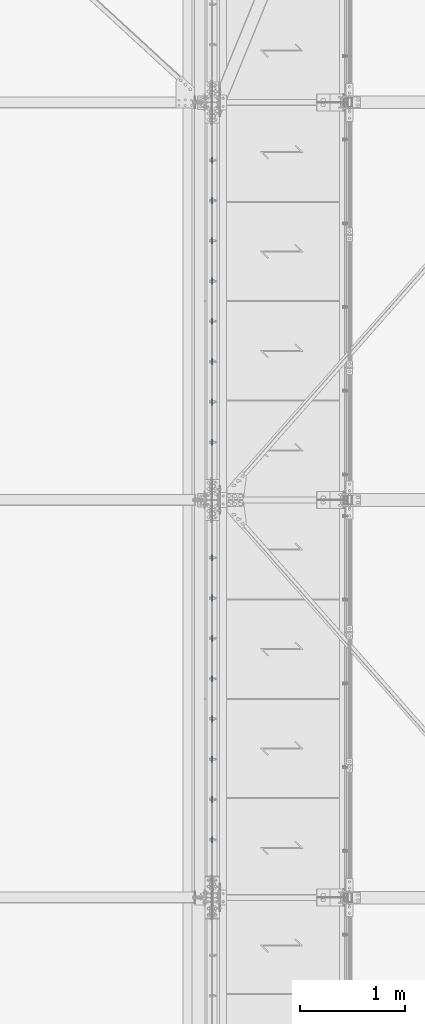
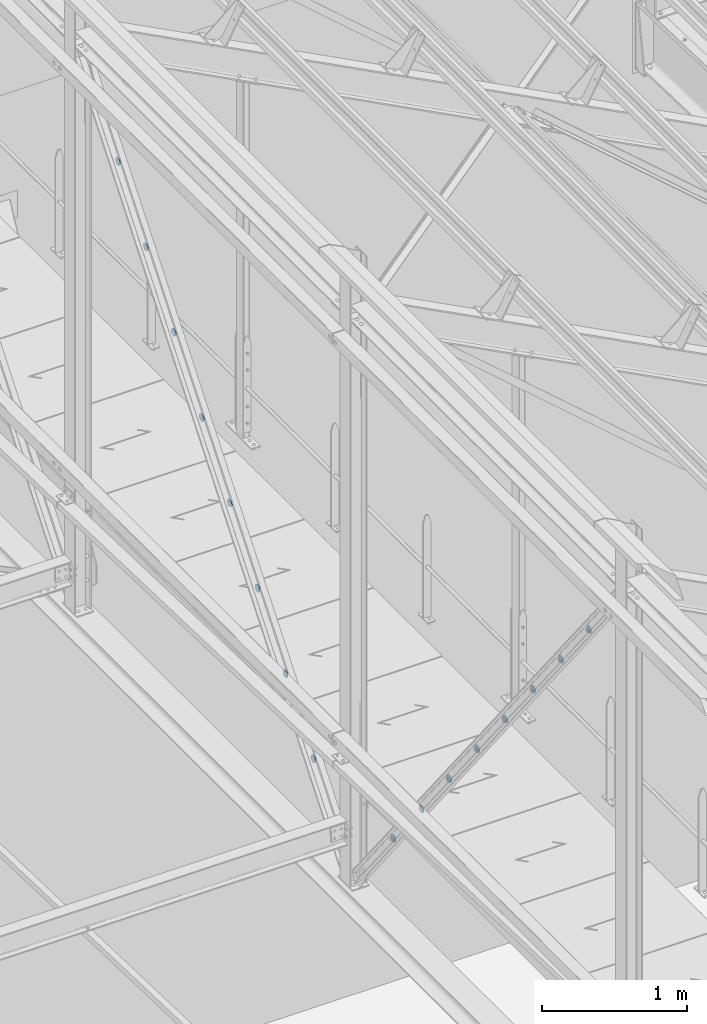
# One storey, part 118 of 362: 16 beams, 16 elements without a shape of their own.
"""IFC2X3 building model written with IfcOpenShell, lengths in millimetres."""

from ifc_helpers import new_model, si_unit, frame, frame_2d, origin_with_axes, place, context, subcontext, project, spatial, circle_curve, parameter, trimmed, segment, composite_curve, outline, extrude, material, type_object, element, aggregate, save


model = new_model("IFC2X3")

# Units and contexts
model_context = context("Model", 3, precision=1e-05, world=origin_with_axes())
body_context = subcontext(model_context, "Body", "Model", "MODEL_VIEW")
ifc_project = project(units=[si_unit("LENGTHUNIT", "METRE", prefix="MILLI"), si_unit("AREAUNIT", "SQUARE_METRE"), si_unit("VOLUMEUNIT", "CUBIC_METRE"), si_unit("MASSUNIT", "GRAM", prefix="KILO"), si_unit("TIMEUNIT", "SECOND"), si_unit("PLANEANGLEUNIT", "RADIAN"), si_unit("SOLIDANGLEUNIT", "STERADIAN"), si_unit("THERMODYNAMICTEMPERATUREUNIT", "DEGREE_CELSIUS"), si_unit("LUMINOUSINTENSITYUNIT", "LUMEN")], contexts=[model_context])

# Site, building, storey
site_placement = place(None, origin_with_axes())
site = spatial("IfcSite", under=ifc_project, at=site_placement, Name="Undefined", CompositionType="ELEMENT")
building_placement = place(site_placement, origin_with_axes())
building = spatial("IfcBuilding", under=site, at=building_placement, Name="Undefined", CompositionType="ELEMENT")
storey_placement = place(building_placement, origin_with_axes())
storey = spatial("IfcBuildingStorey", under=building, at=storey_placement, Name="Undefined", CompositionType="ELEMENT", Elevation=0.0)

# Assembly, beam
assembly_1_placement = place(storey_placement, origin_with_axes())
assembly_1 = element("IfcElementAssembly", 1, at=assembly_1_placement, inside=storey, AssemblyPlace="NOTDEFINED", PredefinedType="NOTDEFINED")
ifc_material = material(Name="Undefined/S235-E24")
beam_type = type_object("IfcBeamType", Name="TOLE8*60", PredefinedType="NOTDEFINED")
beam_1_placement = place(assembly_1_placement, frame((12680.0, 4382.78710359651, 11370.6337213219), z_axis=(-1.0, 0.0, 0.0), x_axis=(0.0, 0.0, -1.0)))
beam_1 = element("IfcBeam", 2, at=beam_1_placement, type_object=beam_type, material=ifc_material, Name="PLAQUETTE", ObjectType="TOLE8*60", context=body_context, shape_type="SweptSolid", body=[
    extrude(outline(composite_curve([segment(trimmed(circle_curve(frame_2d((30.0, 30.0), x_axis=(-1.0, 0.0)), 30.0), [parameter(0.0)], [parameter(1.5707963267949)], True, "PARAMETER"), True, "CONTINUOUS"), segment(trimmed(circle_curve(frame_2d((30.0, 30.0), x_axis=(0.0, -1.0)), 30.0), [parameter(0.0)], [parameter(1.5707963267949)], True, "PARAMETER"), True, "CONTINUOUS"), segment(trimmed(circle_curve(frame_2d((30.0, 30.0), x_axis=(1.0, 0.0)), 30.0), [parameter(0.0)], [parameter(1.5707963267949)], True, "PARAMETER"), True, "CONTINUOUS"), segment(trimmed(circle_curve(frame_2d((30.0, 30.0), x_axis=(0.0, 1.0)), 30.0), [parameter(0.0)], [parameter(1.5707963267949)], True, "PARAMETER"), True, "CONTINUOUS")], self_intersect=True)), frame((0.0, 0.0, -4.0), z_axis=(0.0, 0.0, 1.0), x_axis=(1.0, 0.0, 0.0)), (0.0, 0.0, 1.0), 8.0),
])
aggregate(assembly_1, [beam_1])

assembly_2_placement = place(storey_placement, origin_with_axes())
assembly_2 = element("IfcElementAssembly", 3, at=assembly_2_placement, inside=storey, AssemblyPlace="NOTDEFINED", PredefinedType="NOTDEFINED")
beam_2_placement = place(assembly_2_placement, frame((12680.0, 4767.70507401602, 10885.7383723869), z_axis=(-1.0, 0.0, 0.0), x_axis=(0.0, 0.0, -1.0)))
beam_2 = element("IfcBeam", 4, at=beam_2_placement, type_object=beam_type, material=ifc_material, Name="PLAQUETTE", ObjectType="TOLE8*60", context=body_context, shape_type="SweptSolid", body=[
    extrude(outline(composite_curve([segment(trimmed(circle_curve(frame_2d((30.0, 30.0), x_axis=(-1.0, 0.0)), 30.0), [parameter(0.0)], [parameter(1.5707963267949)], True, "PARAMETER"), True, "CONTINUOUS"), segment(trimmed(circle_curve(frame_2d((30.0, 30.0), x_axis=(0.0, -1.0)), 30.0), [parameter(0.0)], [parameter(1.5707963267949)], True, "PARAMETER"), True, "CONTINUOUS"), segment(trimmed(circle_curve(frame_2d((30.0, 30.0), x_axis=(1.0, 0.0)), 30.0), [parameter(0.0)], [parameter(1.5707963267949)], True, "PARAMETER"), True, "CONTINUOUS"), segment(trimmed(circle_curve(frame_2d((30.0, 30.0), x_axis=(0.0, 1.0)), 30.0), [parameter(0.0)], [parameter(1.5707963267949)], True, "PARAMETER"), True, "CONTINUOUS")], self_intersect=True)), frame((0.0, 0.0, -4.0), z_axis=(0.0, 0.0, 1.0), x_axis=(1.0, 0.0, 0.0)), (0.0, 0.0, 1.0), 8.0),
])
aggregate(assembly_2, [beam_2])

assembly_3_placement = place(storey_placement, origin_with_axes())
assembly_3 = element("IfcElementAssembly", 5, at=assembly_3_placement, inside=storey, AssemblyPlace="NOTDEFINED", PredefinedType="NOTDEFINED")
beam_3_placement = place(assembly_3_placement, frame((12680.0, 5152.62304443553, 10400.843023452), z_axis=(-1.0, 0.0, 0.0), x_axis=(0.0, 0.0, -1.0)))
beam_3 = element("IfcBeam", 6, at=beam_3_placement, type_object=beam_type, material=ifc_material, Name="PLAQUETTE", ObjectType="TOLE8*60", context=body_context, shape_type="SweptSolid", body=[
    extrude(outline(composite_curve([segment(trimmed(circle_curve(frame_2d((30.0, 30.0), x_axis=(-1.0, 0.0)), 30.0), [parameter(0.0)], [parameter(1.5707963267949)], True, "PARAMETER"), True, "CONTINUOUS"), segment(trimmed(circle_curve(frame_2d((30.0, 30.0), x_axis=(0.0, -1.0)), 30.0), [parameter(0.0)], [parameter(1.5707963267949)], True, "PARAMETER"), True, "CONTINUOUS"), segment(trimmed(circle_curve(frame_2d((30.0, 30.0), x_axis=(1.0, 0.0)), 30.0), [parameter(0.0)], [parameter(1.5707963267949)], True, "PARAMETER"), True, "CONTINUOUS"), segment(trimmed(circle_curve(frame_2d((30.0, 30.0), x_axis=(0.0, 1.0)), 30.0), [parameter(0.0)], [parameter(1.5707963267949)], True, "PARAMETER"), True, "CONTINUOUS")], self_intersect=True)), frame((0.0, 0.0, -4.0), z_axis=(0.0, 0.0, 1.0), x_axis=(1.0, 0.0, 0.0)), (0.0, 0.0, 1.0), 8.0),
])
aggregate(assembly_3, [beam_3])

assembly_4_placement = place(storey_placement, origin_with_axes())
assembly_4 = element("IfcElementAssembly", 7, at=assembly_4_placement, inside=storey, AssemblyPlace="NOTDEFINED", PredefinedType="NOTDEFINED")
beam_4_placement = place(assembly_4_placement, frame((12680.0, 5537.54101485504, 9915.94767451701), z_axis=(-1.0, 0.0, 0.0), x_axis=(0.0, 0.0, -1.0)))
beam_4 = element("IfcBeam", 8, at=beam_4_placement, type_object=beam_type, material=ifc_material, Name="PLAQUETTE", ObjectType="TOLE8*60", context=body_context, shape_type="SweptSolid", body=[
    extrude(outline(composite_curve([segment(trimmed(circle_curve(frame_2d((30.0, 30.0), x_axis=(-1.0, 0.0)), 30.0), [parameter(0.0)], [parameter(1.5707963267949)], True, "PARAMETER"), True, "CONTINUOUS"), segment(trimmed(circle_curve(frame_2d((30.0, 30.0), x_axis=(0.0, -1.0)), 30.0), [parameter(0.0)], [parameter(1.5707963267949)], True, "PARAMETER"), True, "CONTINUOUS"), segment(trimmed(circle_curve(frame_2d((30.0, 30.0), x_axis=(1.0, 0.0)), 30.0), [parameter(0.0)], [parameter(1.5707963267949)], True, "PARAMETER"), True, "CONTINUOUS"), segment(trimmed(circle_curve(frame_2d((30.0, 30.0), x_axis=(0.0, 1.0)), 30.0), [parameter(0.0)], [parameter(1.5707963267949)], True, "PARAMETER"), True, "CONTINUOUS")], self_intersect=True)), frame((0.0, 0.0, -4.0), z_axis=(0.0, 0.0, 1.0), x_axis=(1.0, 0.0, 0.0)), (0.0, 0.0, 1.0), 8.0),
])
aggregate(assembly_4, [beam_4])

assembly_5_placement = place(storey_placement, origin_with_axes())
assembly_5 = element("IfcElementAssembly", 9, at=assembly_5_placement, inside=storey, AssemblyPlace="NOTDEFINED", PredefinedType="NOTDEFINED")
beam_5_placement = place(assembly_5_placement, frame((12680.0, 5922.45898527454, 9431.05232558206), z_axis=(-1.0, 0.0, 0.0), x_axis=(0.0, 0.0, -1.0)))
beam_5 = element("IfcBeam", 10, at=beam_5_placement, type_object=beam_type, material=ifc_material, Name="PLAQUETTE", ObjectType="TOLE8*60", context=body_context, shape_type="SweptSolid", body=[
    extrude(outline(composite_curve([segment(trimmed(circle_curve(frame_2d((30.0, 30.0), x_axis=(-1.0, 0.0)), 30.0), [parameter(0.0)], [parameter(1.5707963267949)], True, "PARAMETER"), True, "CONTINUOUS"), segment(trimmed(circle_curve(frame_2d((30.0, 30.0), x_axis=(0.0, -1.0)), 30.0), [parameter(0.0)], [parameter(1.5707963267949)], True, "PARAMETER"), True, "CONTINUOUS"), segment(trimmed(circle_curve(frame_2d((30.0, 30.0), x_axis=(1.0, 0.0)), 30.0), [parameter(0.0)], [parameter(1.5707963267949)], True, "PARAMETER"), True, "CONTINUOUS"), segment(trimmed(circle_curve(frame_2d((30.0, 30.0), x_axis=(0.0, 1.0)), 30.0), [parameter(0.0)], [parameter(1.5707963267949)], True, "PARAMETER"), True, "CONTINUOUS")], self_intersect=True)), frame((0.0, 0.0, -4.0), z_axis=(0.0, 0.0, 1.0), x_axis=(1.0, 0.0, 0.0)), (0.0, 0.0, 1.0), 8.0),
])
aggregate(assembly_5, [beam_5])

assembly_6_placement = place(storey_placement, origin_with_axes())
assembly_6 = element("IfcElementAssembly", 11, at=assembly_6_placement, inside=storey, AssemblyPlace="NOTDEFINED", PredefinedType="NOTDEFINED")
beam_6_placement = place(assembly_6_placement, frame((12680.0, 6307.37695569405, 8946.15697664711), z_axis=(-1.0, 0.0, 0.0), x_axis=(0.0, 0.0, -1.0)))
beam_6 = element("IfcBeam", 12, at=beam_6_placement, type_object=beam_type, material=ifc_material, Name="PLAQUETTE", ObjectType="TOLE8*60", context=body_context, shape_type="SweptSolid", body=[
    extrude(outline(composite_curve([segment(trimmed(circle_curve(frame_2d((30.0, 30.0), x_axis=(-1.0, 0.0)), 30.0), [parameter(0.0)], [parameter(1.5707963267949)], True, "PARAMETER"), True, "CONTINUOUS"), segment(trimmed(circle_curve(frame_2d((30.0, 30.0), x_axis=(0.0, -1.0)), 30.0), [parameter(0.0)], [parameter(1.5707963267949)], True, "PARAMETER"), True, "CONTINUOUS"), segment(trimmed(circle_curve(frame_2d((30.0, 30.0), x_axis=(1.0, 0.0)), 30.0), [parameter(0.0)], [parameter(1.5707963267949)], True, "PARAMETER"), True, "CONTINUOUS"), segment(trimmed(circle_curve(frame_2d((30.0, 30.0), x_axis=(0.0, 1.0)), 30.0), [parameter(0.0)], [parameter(1.5707963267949)], True, "PARAMETER"), True, "CONTINUOUS")], self_intersect=True)), frame((0.0, 0.0, -4.0), z_axis=(0.0, 0.0, 1.0), x_axis=(1.0, 0.0, 0.0)), (0.0, 0.0, 1.0), 8.0),
])
aggregate(assembly_6, [beam_6])

assembly_7_placement = place(storey_placement, origin_with_axes())
assembly_7 = element("IfcElementAssembly", 13, at=assembly_7_placement, inside=storey, AssemblyPlace="NOTDEFINED", PredefinedType="NOTDEFINED")
beam_7_placement = place(assembly_7_placement, frame((12680.0, 6692.29492611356, 8461.26162771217), z_axis=(-1.0, 0.0, 0.0), x_axis=(0.0, 0.0, -1.0)))
beam_7 = element("IfcBeam", 14, at=beam_7_placement, type_object=beam_type, material=ifc_material, Name="PLAQUETTE", ObjectType="TOLE8*60", context=body_context, shape_type="SweptSolid", body=[
    extrude(outline(composite_curve([segment(trimmed(circle_curve(frame_2d((30.0, 30.0), x_axis=(-1.0, 0.0)), 30.0), [parameter(0.0)], [parameter(1.5707963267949)], True, "PARAMETER"), True, "CONTINUOUS"), segment(trimmed(circle_curve(frame_2d((30.0, 30.0), x_axis=(0.0, -1.0)), 30.0), [parameter(0.0)], [parameter(1.5707963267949)], True, "PARAMETER"), True, "CONTINUOUS"), segment(trimmed(circle_curve(frame_2d((30.0, 30.0), x_axis=(1.0, 0.0)), 30.0), [parameter(0.0)], [parameter(1.5707963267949)], True, "PARAMETER"), True, "CONTINUOUS"), segment(trimmed(circle_curve(frame_2d((30.0, 30.0), x_axis=(0.0, 1.0)), 30.0), [parameter(0.0)], [parameter(1.5707963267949)], True, "PARAMETER"), True, "CONTINUOUS")], self_intersect=True)), frame((0.0, 0.0, -4.0), z_axis=(0.0, 0.0, 1.0), x_axis=(1.0, 0.0, 0.0)), (0.0, 0.0, 1.0), 8.0),
])
aggregate(assembly_7, [beam_7])

assembly_8_placement = place(storey_placement, origin_with_axes())
assembly_8 = element("IfcElementAssembly", 15, at=assembly_8_placement, inside=storey, AssemblyPlace="NOTDEFINED", PredefinedType="NOTDEFINED")
beam_8_placement = place(assembly_8_placement, frame((12680.0, 7077.21289653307, 7976.36627877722), z_axis=(-1.0, 0.0, 0.0), x_axis=(0.0, 0.0, -1.0)))
beam_8 = element("IfcBeam", 16, at=beam_8_placement, type_object=beam_type, material=ifc_material, Name="PLAQUETTE", ObjectType="TOLE8*60", context=body_context, shape_type="SweptSolid", body=[
    extrude(outline(composite_curve([segment(trimmed(circle_curve(frame_2d((30.0, 30.0), x_axis=(-1.0, 0.0)), 30.0), [parameter(0.0)], [parameter(1.5707963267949)], True, "PARAMETER"), True, "CONTINUOUS"), segment(trimmed(circle_curve(frame_2d((30.0, 30.0), x_axis=(0.0, -1.0)), 30.0), [parameter(0.0)], [parameter(1.5707963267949)], True, "PARAMETER"), True, "CONTINUOUS"), segment(trimmed(circle_curve(frame_2d((30.0, 30.0), x_axis=(1.0, 0.0)), 30.0), [parameter(0.0)], [parameter(1.5707963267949)], True, "PARAMETER"), True, "CONTINUOUS"), segment(trimmed(circle_curve(frame_2d((30.0, 30.0), x_axis=(0.0, 1.0)), 30.0), [parameter(0.0)], [parameter(1.5707963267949)], True, "PARAMETER"), True, "CONTINUOUS")], self_intersect=True)), frame((0.0, 0.0, -4.0), z_axis=(0.0, 0.0, 1.0), x_axis=(1.0, 0.0, 0.0)), (0.0, 0.0, 1.0), 8.0),
])
aggregate(assembly_8, [beam_8])

assembly_9_placement = place(storey_placement, origin_with_axes())
assembly_9 = element("IfcElementAssembly", 17, at=assembly_9_placement, inside=storey, AssemblyPlace="NOTDEFINED", PredefinedType="NOTDEFINED")
beam_9_placement = place(assembly_9_placement, frame((12680.0, 10877.2128972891, 11370.6337206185), z_axis=(-1.0, 0.0, 0.0), x_axis=(0.0, 0.0, -1.0)))
beam_9 = element("IfcBeam", 18, at=beam_9_placement, type_object=beam_type, material=ifc_material, Name="PLAQUETTE", ObjectType="TOLE8*60", context=body_context, shape_type="SweptSolid", body=[
    extrude(outline(composite_curve([segment(trimmed(circle_curve(frame_2d((30.0, 30.0), x_axis=(-1.0, 0.0)), 30.0), [parameter(0.0)], [parameter(1.5707963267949)], True, "PARAMETER"), True, "CONTINUOUS"), segment(trimmed(circle_curve(frame_2d((30.0, 30.0), x_axis=(0.0, -1.0)), 30.0), [parameter(0.0)], [parameter(1.5707963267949)], True, "PARAMETER"), True, "CONTINUOUS"), segment(trimmed(circle_curve(frame_2d((30.0, 30.0), x_axis=(1.0, 0.0)), 30.0), [parameter(0.0)], [parameter(1.5707963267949)], True, "PARAMETER"), True, "CONTINUOUS"), segment(trimmed(circle_curve(frame_2d((30.0, 30.0), x_axis=(0.0, 1.0)), 30.0), [parameter(0.0)], [parameter(1.5707963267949)], True, "PARAMETER"), True, "CONTINUOUS")], self_intersect=True)), frame((0.0, 0.0, -4.0), z_axis=(0.0, 0.0, 1.0), x_axis=(1.0, 0.0, 0.0)), (0.0, 0.0, 1.0), 8.0),
])
aggregate(assembly_9, [beam_9])

assembly_10_placement = place(storey_placement, origin_with_axes())
assembly_10 = element("IfcElementAssembly", 19, at=assembly_10_placement, inside=storey, AssemblyPlace="NOTDEFINED", PredefinedType="NOTDEFINED")
beam_10_placement = place(assembly_10_placement, frame((12680.0, 10492.2949268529, 10885.7383716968), z_axis=(-1.0, 0.0, 0.0), x_axis=(0.0, 0.0, -1.0)))
beam_10 = element("IfcBeam", 20, at=beam_10_placement, type_object=beam_type, material=ifc_material, Name="PLAQUETTE", ObjectType="TOLE8*60", context=body_context, shape_type="SweptSolid", body=[
    extrude(outline(composite_curve([segment(trimmed(circle_curve(frame_2d((30.0, 30.0), x_axis=(-1.0, 0.0)), 30.0), [parameter(0.0)], [parameter(1.5707963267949)], True, "PARAMETER"), True, "CONTINUOUS"), segment(trimmed(circle_curve(frame_2d((30.0, 30.0), x_axis=(0.0, -1.0)), 30.0), [parameter(0.0)], [parameter(1.5707963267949)], True, "PARAMETER"), True, "CONTINUOUS"), segment(trimmed(circle_curve(frame_2d((30.0, 30.0), x_axis=(1.0, 0.0)), 30.0), [parameter(0.0)], [parameter(1.5707963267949)], True, "PARAMETER"), True, "CONTINUOUS"), segment(trimmed(circle_curve(frame_2d((30.0, 30.0), x_axis=(0.0, 1.0)), 30.0), [parameter(0.0)], [parameter(1.5707963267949)], True, "PARAMETER"), True, "CONTINUOUS")], self_intersect=True)), frame((0.0, 0.0, -4.0), z_axis=(0.0, 0.0, 1.0), x_axis=(1.0, 0.0, 0.0)), (0.0, 0.0, 1.0), 8.0),
])
aggregate(assembly_10, [beam_10])

assembly_11_placement = place(storey_placement, origin_with_axes())
assembly_11 = element("IfcElementAssembly", 21, at=assembly_11_placement, inside=storey, AssemblyPlace="NOTDEFINED", PredefinedType="NOTDEFINED")
beam_11_placement = place(assembly_11_placement, frame((12680.0, 10107.3769564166, 10400.8430227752), z_axis=(-1.0, 0.0, 0.0), x_axis=(0.0, 0.0, -1.0)))
beam_11 = element("IfcBeam", 22, at=beam_11_placement, type_object=beam_type, material=ifc_material, Name="PLAQUETTE", ObjectType="TOLE8*60", context=body_context, shape_type="SweptSolid", body=[
    extrude(outline(composite_curve([segment(trimmed(circle_curve(frame_2d((30.0, 30.0), x_axis=(-1.0, 0.0)), 30.0), [parameter(0.0)], [parameter(1.5707963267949)], True, "PARAMETER"), True, "CONTINUOUS"), segment(trimmed(circle_curve(frame_2d((30.0, 30.0), x_axis=(0.0, -1.0)), 30.0), [parameter(0.0)], [parameter(1.5707963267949)], True, "PARAMETER"), True, "CONTINUOUS"), segment(trimmed(circle_curve(frame_2d((30.0, 30.0), x_axis=(1.0, 0.0)), 30.0), [parameter(0.0)], [parameter(1.5707963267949)], True, "PARAMETER"), True, "CONTINUOUS"), segment(trimmed(circle_curve(frame_2d((30.0, 30.0), x_axis=(0.0, 1.0)), 30.0), [parameter(0.0)], [parameter(1.5707963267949)], True, "PARAMETER"), True, "CONTINUOUS")], self_intersect=True)), frame((0.0, 0.0, -4.0), z_axis=(0.0, 0.0, 1.0), x_axis=(1.0, 0.0, 0.0)), (0.0, 0.0, 1.0), 8.0),
])
aggregate(assembly_11, [beam_11])

assembly_12_placement = place(storey_placement, origin_with_axes())
assembly_12 = element("IfcElementAssembly", 23, at=assembly_12_placement, inside=storey, AssemblyPlace="NOTDEFINED", PredefinedType="NOTDEFINED")
beam_12_placement = place(assembly_12_placement, frame((12680.0, 9722.45898598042, 9915.9476738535), z_axis=(-1.0, 0.0, 0.0), x_axis=(0.0, 0.0, -1.0)))
beam_12 = element("IfcBeam", 24, at=beam_12_placement, type_object=beam_type, material=ifc_material, Name="PLAQUETTE", ObjectType="TOLE8*60", context=body_context, shape_type="SweptSolid", body=[
    extrude(outline(composite_curve([segment(trimmed(circle_curve(frame_2d((30.0, 30.0), x_axis=(-1.0, 0.0)), 30.0), [parameter(0.0)], [parameter(1.5707963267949)], True, "PARAMETER"), True, "CONTINUOUS"), segment(trimmed(circle_curve(frame_2d((30.0, 30.0), x_axis=(0.0, -1.0)), 30.0), [parameter(0.0)], [parameter(1.5707963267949)], True, "PARAMETER"), True, "CONTINUOUS"), segment(trimmed(circle_curve(frame_2d((30.0, 30.0), x_axis=(1.0, 0.0)), 30.0), [parameter(0.0)], [parameter(1.5707963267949)], True, "PARAMETER"), True, "CONTINUOUS"), segment(trimmed(circle_curve(frame_2d((30.0, 30.0), x_axis=(0.0, 1.0)), 30.0), [parameter(0.0)], [parameter(1.5707963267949)], True, "PARAMETER"), True, "CONTINUOUS")], self_intersect=True)), frame((0.0, 0.0, -4.0), z_axis=(0.0, 0.0, 1.0), x_axis=(1.0, 0.0, 0.0)), (0.0, 0.0, 1.0), 8.0),
])
aggregate(assembly_12, [beam_12])

assembly_13_placement = place(storey_placement, origin_with_axes())
assembly_13 = element("IfcElementAssembly", 25, at=assembly_13_placement, inside=storey, AssemblyPlace="NOTDEFINED", PredefinedType="NOTDEFINED")
beam_13_placement = place(assembly_13_placement, frame((12680.0, 9337.54101554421, 9431.05232493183), z_axis=(-1.0, 0.0, 0.0), x_axis=(0.0, 0.0, -1.0)))
beam_13 = element("IfcBeam", 26, at=beam_13_placement, type_object=beam_type, material=ifc_material, Name="PLAQUETTE", ObjectType="TOLE8*60", context=body_context, shape_type="SweptSolid", body=[
    extrude(outline(composite_curve([segment(trimmed(circle_curve(frame_2d((30.0, 30.0), x_axis=(-1.0, 0.0)), 30.0), [parameter(0.0)], [parameter(1.5707963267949)], True, "PARAMETER"), True, "CONTINUOUS"), segment(trimmed(circle_curve(frame_2d((30.0, 30.0), x_axis=(0.0, -1.0)), 30.0), [parameter(0.0)], [parameter(1.5707963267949)], True, "PARAMETER"), True, "CONTINUOUS"), segment(trimmed(circle_curve(frame_2d((30.0, 30.0), x_axis=(1.0, 0.0)), 30.0), [parameter(0.0)], [parameter(1.5707963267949)], True, "PARAMETER"), True, "CONTINUOUS"), segment(trimmed(circle_curve(frame_2d((30.0, 30.0), x_axis=(0.0, 1.0)), 30.0), [parameter(0.0)], [parameter(1.5707963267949)], True, "PARAMETER"), True, "CONTINUOUS")], self_intersect=True)), frame((0.0, 0.0, -4.0), z_axis=(0.0, 0.0, 1.0), x_axis=(1.0, 0.0, 0.0)), (0.0, 0.0, 1.0), 8.0),
])
aggregate(assembly_13, [beam_13])

assembly_14_placement = place(storey_placement, origin_with_axes())
assembly_14 = element("IfcElementAssembly", 27, at=assembly_14_placement, inside=storey, AssemblyPlace="NOTDEFINED", PredefinedType="NOTDEFINED")
beam_14_placement = place(assembly_14_placement, frame((12680.0, 8952.62304510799, 8946.15697601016), z_axis=(-1.0, 0.0, 0.0), x_axis=(0.0, 0.0, -1.0)))
beam_14 = element("IfcBeam", 28, at=beam_14_placement, type_object=beam_type, material=ifc_material, Name="PLAQUETTE", ObjectType="TOLE8*60", context=body_context, shape_type="SweptSolid", body=[
    extrude(outline(composite_curve([segment(trimmed(circle_curve(frame_2d((30.0, 30.0), x_axis=(-1.0, 0.0)), 30.0), [parameter(0.0)], [parameter(1.5707963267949)], True, "PARAMETER"), True, "CONTINUOUS"), segment(trimmed(circle_curve(frame_2d((30.0, 30.0), x_axis=(0.0, -1.0)), 30.0), [parameter(0.0)], [parameter(1.5707963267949)], True, "PARAMETER"), True, "CONTINUOUS"), segment(trimmed(circle_curve(frame_2d((30.0, 30.0), x_axis=(1.0, 0.0)), 30.0), [parameter(0.0)], [parameter(1.5707963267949)], True, "PARAMETER"), True, "CONTINUOUS"), segment(trimmed(circle_curve(frame_2d((30.0, 30.0), x_axis=(0.0, 1.0)), 30.0), [parameter(0.0)], [parameter(1.5707963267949)], True, "PARAMETER"), True, "CONTINUOUS")], self_intersect=True)), frame((0.0, 0.0, -4.0), z_axis=(0.0, 0.0, 1.0), x_axis=(1.0, 0.0, 0.0)), (0.0, 0.0, 1.0), 8.0),
])
aggregate(assembly_14, [beam_14])

assembly_15_placement = place(storey_placement, origin_with_axes())
assembly_15 = element("IfcElementAssembly", 29, at=assembly_15_placement, inside=storey, AssemblyPlace="NOTDEFINED", PredefinedType="NOTDEFINED")
beam_15_placement = place(assembly_15_placement, frame((12680.0, 8567.70507467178, 8461.26162708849), z_axis=(-1.0, 0.0, 0.0), x_axis=(0.0, 0.0, -1.0)))
beam_15 = element("IfcBeam", 30, at=beam_15_placement, type_object=beam_type, material=ifc_material, Name="PLAQUETTE", ObjectType="TOLE8*60", context=body_context, shape_type="SweptSolid", body=[
    extrude(outline(composite_curve([segment(trimmed(circle_curve(frame_2d((30.0, 30.0), x_axis=(-1.0, 0.0)), 30.0), [parameter(0.0)], [parameter(1.5707963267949)], True, "PARAMETER"), True, "CONTINUOUS"), segment(trimmed(circle_curve(frame_2d((30.0, 30.0), x_axis=(0.0, -1.0)), 30.0), [parameter(0.0)], [parameter(1.5707963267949)], True, "PARAMETER"), True, "CONTINUOUS"), segment(trimmed(circle_curve(frame_2d((30.0, 30.0), x_axis=(1.0, 0.0)), 30.0), [parameter(0.0)], [parameter(1.5707963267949)], True, "PARAMETER"), True, "CONTINUOUS"), segment(trimmed(circle_curve(frame_2d((30.0, 30.0), x_axis=(0.0, 1.0)), 30.0), [parameter(0.0)], [parameter(1.5707963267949)], True, "PARAMETER"), True, "CONTINUOUS")], self_intersect=True)), frame((0.0, 0.0, -4.0), z_axis=(0.0, 0.0, 1.0), x_axis=(1.0, 0.0, 0.0)), (0.0, 0.0, 1.0), 8.0),
])
aggregate(assembly_15, [beam_15])

assembly_16_placement = place(storey_placement, origin_with_axes())
assembly_16 = element("IfcElementAssembly", 31, at=assembly_16_placement, inside=storey, AssemblyPlace="NOTDEFINED", PredefinedType="NOTDEFINED")
beam_16_placement = place(assembly_16_placement, frame((12680.0, 8182.78710423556, 7976.36627816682), z_axis=(-1.0, 0.0, 0.0), x_axis=(0.0, 0.0, -1.0)))
beam_16 = element("IfcBeam", 32, at=beam_16_placement, type_object=beam_type, material=ifc_material, Name="PLAQUETTE", ObjectType="TOLE8*60", context=body_context, shape_type="SweptSolid", body=[
    extrude(outline(composite_curve([segment(trimmed(circle_curve(frame_2d((30.0, 30.0), x_axis=(-1.0, 0.0)), 30.0), [parameter(0.0)], [parameter(1.5707963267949)], True, "PARAMETER"), True, "CONTINUOUS"), segment(trimmed(circle_curve(frame_2d((30.0, 30.0), x_axis=(0.0, -1.0)), 30.0), [parameter(0.0)], [parameter(1.5707963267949)], True, "PARAMETER"), True, "CONTINUOUS"), segment(trimmed(circle_curve(frame_2d((30.0, 30.0), x_axis=(1.0, 0.0)), 30.0), [parameter(0.0)], [parameter(1.5707963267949)], True, "PARAMETER"), True, "CONTINUOUS"), segment(trimmed(circle_curve(frame_2d((30.0, 30.0), x_axis=(0.0, 1.0)), 30.0), [parameter(0.0)], [parameter(1.5707963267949)], True, "PARAMETER"), True, "CONTINUOUS")], self_intersect=True)), frame((0.0, 0.0, -4.0), z_axis=(0.0, 0.0, 1.0), x_axis=(1.0, 0.0, 0.0)), (0.0, 0.0, 1.0), 8.0),
])
aggregate(assembly_16, [beam_16])

save(model, "model.ifc")
